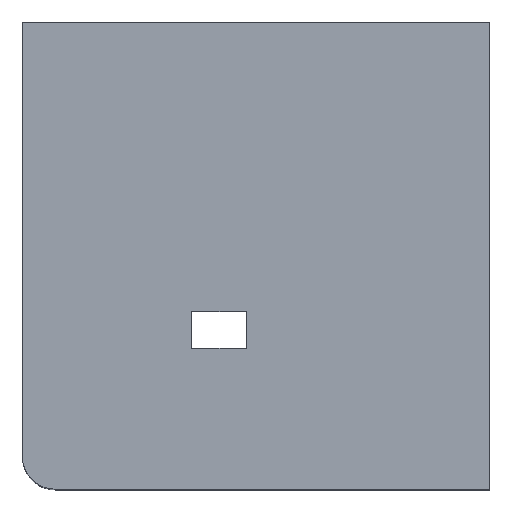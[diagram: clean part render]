
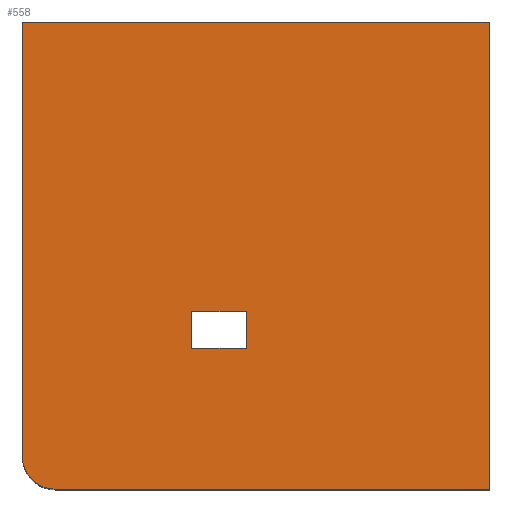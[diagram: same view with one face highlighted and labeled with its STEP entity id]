
A CAD part, top view. The second image highlights one B-rep face of the part: STEP entity #558.
In plain terms, the highlighted planar face has unit normal (0, 0, 1).
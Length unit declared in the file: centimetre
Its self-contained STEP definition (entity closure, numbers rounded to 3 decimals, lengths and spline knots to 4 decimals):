
#30 = CARTESIAN_POINT ( 'NONE',  ( 1000., 1000., 1000. ) ) ;
#36 = VERTEX_POINT ( 'NONE', #123 ) ;
#52 = DIRECTION ( 'NONE',  ( 0., 0., 1. ) ) ;
#57 = DIRECTION ( 'NONE',  ( 0., -1., 0. ) ) ;
#65 = VECTOR ( 'NONE', #479, 100. ) ;
#86 = VERTEX_POINT ( 'NONE', #361 ) ;
#93 = CARTESIAN_POINT ( 'NONE',  ( 479.4624, 301.6517, 1000. ) ) ;
#111 = VERTEX_POINT ( 'NONE', #409 ) ;
#123 = CARTESIAN_POINT ( 'NONE',  ( 479.4624, 301.6517, 1000. ) ) ;
#129 = VECTOR ( 'NONE', #57, 100. ) ;
#137 = VERTEX_POINT ( 'NONE', #30 ) ;
#141 = VECTOR ( 'NONE', #400, 100. ) ;
#154 = EDGE_CURVE ( 'NONE', #86, #189, #554, .T. ) ;
#157 = EDGE_CURVE ( 'NONE', #484, #380, #176, .T. ) ;
#168 = VECTOR ( 'NONE', #402, 100. ) ;
#172 = DIRECTION ( 'NONE',  ( 1., 0., 0. ) ) ;
#176 = LINE ( 'NONE', #596, #230 ) ;
#181 = AXIS2_PLACEMENT_3D ( 'NONE', #488, #249, #344 ) ;
#186 = EDGE_LOOP ( 'NONE', ( #279, #342, #426, #429 ) ) ;
#189 = VERTEX_POINT ( 'NONE', #207 ) ;
#193 = CARTESIAN_POINT ( 'NONE',  ( 70.3512, 0., 1000. ) ) ;
#206 = LINE ( 'NONE', #430, #65 ) ;
#207 = CARTESIAN_POINT ( 'NONE',  ( 362.136, 381.0617, 1000. ) ) ;
#230 = VECTOR ( 'NONE', #172, 100. ) ;
#239 = VERTEX_POINT ( 'NONE', #610 ) ;
#240 = ORIENTED_EDGE ( 'NONE', *, *, #454, .T. ) ;
#249 = DIRECTION ( 'NONE',  ( 0., 0., 1. ) ) ;
#251 = VERTEX_POINT ( 'NONE', #437 ) ;
#262 = CARTESIAN_POINT ( 'NONE',  ( 1000., 0., 1000. ) ) ;
#276 = DIRECTION ( 'NONE',  ( -1., 0., 0. ) ) ;
#279 = ORIENTED_EDGE ( 'NONE', *, *, #563, .F. ) ;
#284 = FACE_BOUND ( 'NONE', #186, .T. ) ;
#288 = DIRECTION ( 'NONE',  ( 1., 0., 0. ) ) ;
#292 = CARTESIAN_POINT ( 'NONE',  ( 0., 1000., 1000. ) ) ;
#309 = VECTOR ( 'NONE', #335, 100. ) ;
#314 = EDGE_CURVE ( 'NONE', #239, #36, #594, .T. ) ;
#320 = ORIENTED_EDGE ( 'NONE', *, *, #157, .T. ) ;
#335 = DIRECTION ( 'NONE',  ( 0., -1., 0. ) ) ;
#338 = CARTESIAN_POINT ( 'NONE',  ( 362.136, 301.6517, 1000. ) ) ;
#339 = VECTOR ( 'NONE', #385, 100. ) ;
#342 = ORIENTED_EDGE ( 'NONE', *, *, #154, .F. ) ;
#344 = DIRECTION ( 'NONE',  ( 1., 0., 0. ) ) ;
#361 = CARTESIAN_POINT ( 'NONE',  ( 479.4624, 381.0617, 1000. ) ) ;
#366 = EDGE_CURVE ( 'NONE', #380, #137, #495, .T. ) ;
#371 = EDGE_LOOP ( 'NONE', ( #608, #441, #320, #580, #240 ) ) ;
#380 = VERTEX_POINT ( 'NONE', #262 ) ;
#382 = VECTOR ( 'NONE', #276, 100. ) ;
#385 = DIRECTION ( 'NONE',  ( 0., 1., 0. ) ) ;
#400 = DIRECTION ( 'NONE',  ( 0., 1., 0. ) ) ;
#402 = DIRECTION ( 'NONE',  ( 1., 0., 0. ) ) ;
#409 = CARTESIAN_POINT ( 'NONE',  ( 0., 70.3512, 1000. ) ) ;
#426 = ORIENTED_EDGE ( 'NONE', *, *, #553, .F. ) ;
#429 = ORIENTED_EDGE ( 'NONE', *, *, #314, .F. ) ;
#430 = CARTESIAN_POINT ( 'NONE',  ( 0., 1000., 1000. ) ) ;
#436 = CARTESIAN_POINT ( 'NONE',  ( 0., 0., 1000. ) ) ;
#437 = CARTESIAN_POINT ( 'NONE',  ( 0., 1000., 1000. ) ) ;
#440 = PLANE ( 'NONE',  #464 ) ;
#441 = ORIENTED_EDGE ( 'NONE', *, *, #512, .T. ) ;
#454 = EDGE_CURVE ( 'NONE', #137, #251, #206, .T. ) ;
#457 = CARTESIAN_POINT ( 'NONE',  ( 362.136, 301.6517, 1000. ) ) ;
#464 = AXIS2_PLACEMENT_3D ( 'NONE', #436, #52, #288 ) ;
#479 = DIRECTION ( 'NONE',  ( -1., 0., 0. ) ) ;
#482 = LINE ( 'NONE', #338, #309 ) ;
#484 = VERTEX_POINT ( 'NONE', #193 ) ;
#488 = CARTESIAN_POINT ( 'NONE',  ( 70.3512, 70.3512, 1000. ) ) ;
#489 = CARTESIAN_POINT ( 'NONE',  ( 1000., 1000., 1000. ) ) ;
#495 = LINE ( 'NONE', #489, #141 ) ;
#512 = EDGE_CURVE ( 'NONE', #111, #484, #541, .T. ) ;
#519 = LINE ( 'NONE', #93, #339 ) ;
#527 = LINE ( 'NONE', #292, #129 ) ;
#537 = FACE_OUTER_BOUND ( 'NONE', #371, .T. ) ;
#541 = CIRCLE ( 'NONE', #181, 70.3512 ) ;
#553 = EDGE_CURVE ( 'NONE', #36, #86, #519, .T. ) ;
#554 = LINE ( 'NONE', #600, #382 ) ;
#558 = ADVANCED_FACE ( 'NONE', ( #284, #537 ), #440, .T. ) ;
#563 = EDGE_CURVE ( 'NONE', #189, #239, #482, .T. ) ;
#580 = ORIENTED_EDGE ( 'NONE', *, *, #366, .T. ) ;
#594 = LINE ( 'NONE', #457, #168 ) ;
#596 = CARTESIAN_POINT ( 'NONE',  ( 0., 0., 1000. ) ) ;
#597 = EDGE_CURVE ( 'NONE', #251, #111, #527, .T. ) ;
#600 = CARTESIAN_POINT ( 'NONE',  ( 362.136, 381.0617, 1000. ) ) ;
#608 = ORIENTED_EDGE ( 'NONE', *, *, #597, .T. ) ;
#610 = CARTESIAN_POINT ( 'NONE',  ( 362.136, 301.6517, 1000. ) ) ;
